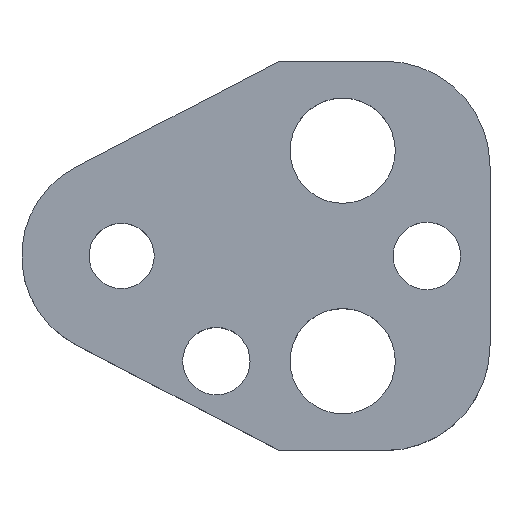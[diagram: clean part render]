
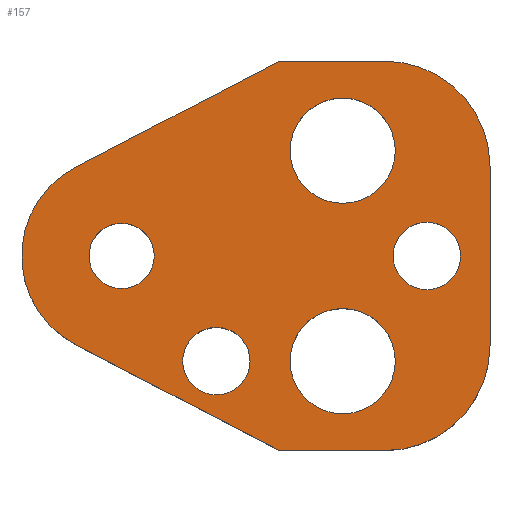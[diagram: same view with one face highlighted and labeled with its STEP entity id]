
A CAD part, top view. The second image highlights one B-rep face of the part: STEP entity #157.
In plain terms, the highlighted planar face has unit normal (0, 0, 1).
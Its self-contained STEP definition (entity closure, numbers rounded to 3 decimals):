
#103=FACE_BOUND('',#207,.T.);
#104=FACE_BOUND('',#208,.T.);
#105=FACE_BOUND('',#209,.T.);
#106=FACE_BOUND('',#210,.T.);
#107=FACE_BOUND('',#211,.T.);
#108=FACE_BOUND('',#212,.T.);
#122=CIRCLE('',#480,10.);
#124=CIRCLE('',#484,10.);
#127=CIRCLE('',#490,9.5);
#138=CIRCLE('',#503,3.2);
#139=CIRCLE('',#504,3.2);
#140=CIRCLE('',#505,5.);
#141=CIRCLE('',#506,5.);
#142=CIRCLE('',#507,5.);
#143=CIRCLE('',#508,5.);
#144=CIRCLE('',#509,3.2);
#145=CIRCLE('',#510,3.2);
#146=CIRCLE('',#511,3.1);
#147=CIRCLE('',#512,3.1);
#157=ADVANCED_FACE('',(#103,#104,#105,#106,#107,#108),#174,.T.);
#174=PLANE('',#513);
#207=EDGE_LOOP('',(#273,#274,#275,#276,#277,#278,#279,#280));
#208=EDGE_LOOP('',(#281,#282));
#209=EDGE_LOOP('',(#283,#284));
#210=EDGE_LOOP('',(#285,#286));
#211=EDGE_LOOP('',(#287,#288));
#212=EDGE_LOOP('',(#289,#290));
#273=ORIENTED_EDGE('',*,*,#368,.T.);
#274=ORIENTED_EDGE('',*,*,#372,.T.);
#275=ORIENTED_EDGE('',*,*,#375,.T.);
#276=ORIENTED_EDGE('',*,*,#378,.T.);
#277=ORIENTED_EDGE('',*,*,#381,.T.);
#278=ORIENTED_EDGE('',*,*,#384,.T.);
#279=ORIENTED_EDGE('',*,*,#387,.T.);
#280=ORIENTED_EDGE('',*,*,#390,.T.);
#281=ORIENTED_EDGE('',*,*,#401,.T.);
#282=ORIENTED_EDGE('',*,*,#402,.T.);
#283=ORIENTED_EDGE('',*,*,#403,.T.);
#284=ORIENTED_EDGE('',*,*,#404,.T.);
#285=ORIENTED_EDGE('',*,*,#405,.T.);
#286=ORIENTED_EDGE('',*,*,#406,.T.);
#287=ORIENTED_EDGE('',*,*,#407,.T.);
#288=ORIENTED_EDGE('',*,*,#408,.T.);
#289=ORIENTED_EDGE('',*,*,#409,.T.);
#290=ORIENTED_EDGE('',*,*,#410,.T.);
#332=VERTEX_POINT('',#649);
#333=VERTEX_POINT('',#651);
#336=VERTEX_POINT('',#658);
#338=VERTEX_POINT('',#664);
#340=VERTEX_POINT('',#670);
#342=VERTEX_POINT('',#676);
#344=VERTEX_POINT('',#682);
#346=VERTEX_POINT('',#688);
#357=VERTEX_POINT('',#717);
#358=VERTEX_POINT('',#718);
#359=VERTEX_POINT('',#721);
#360=VERTEX_POINT('',#722);
#361=VERTEX_POINT('',#725);
#362=VERTEX_POINT('',#726);
#363=VERTEX_POINT('',#729);
#364=VERTEX_POINT('',#730);
#365=VERTEX_POINT('',#733);
#366=VERTEX_POINT('',#734);
#368=EDGE_CURVE('',#333,#332,#422,.T.);
#372=EDGE_CURVE('',#332,#336,#426,.T.);
#375=EDGE_CURVE('',#336,#338,#122,.T.);
#378=EDGE_CURVE('',#338,#340,#430,.T.);
#381=EDGE_CURVE('',#340,#342,#124,.T.);
#384=EDGE_CURVE('',#342,#344,#434,.T.);
#387=EDGE_CURVE('',#344,#346,#437,.T.);
#390=EDGE_CURVE('',#346,#333,#127,.T.);
#401=EDGE_CURVE('',#357,#358,#138,.T.);
#402=EDGE_CURVE('',#358,#357,#139,.T.);
#403=EDGE_CURVE('',#359,#360,#140,.T.);
#404=EDGE_CURVE('',#360,#359,#141,.T.);
#405=EDGE_CURVE('',#361,#362,#142,.T.);
#406=EDGE_CURVE('',#362,#361,#143,.T.);
#407=EDGE_CURVE('',#363,#364,#144,.T.);
#408=EDGE_CURVE('',#364,#363,#145,.T.);
#409=EDGE_CURVE('',#365,#366,#146,.T.);
#410=EDGE_CURVE('',#366,#365,#147,.T.);
#422=LINE('',#650,#450);
#426=LINE('',#659,#454);
#430=LINE('',#671,#458);
#434=LINE('',#683,#462);
#437=LINE('',#689,#465);
#450=VECTOR('',#527,1.);
#454=VECTOR('',#533,1.);
#458=VECTOR('',#545,1.);
#462=VECTOR('',#557,1.);
#465=VECTOR('',#562,1.);
#480=AXIS2_PLACEMENT_3D('',#665,#538,#539);
#484=AXIS2_PLACEMENT_3D('',#677,#550,#551);
#490=AXIS2_PLACEMENT_3D('',#693,#568,#569);
#503=AXIS2_PLACEMENT_3D('',#716,#594,#595);
#504=AXIS2_PLACEMENT_3D('',#719,#596,#597);
#505=AXIS2_PLACEMENT_3D('',#720,#598,#599);
#506=AXIS2_PLACEMENT_3D('',#723,#600,#601);
#507=AXIS2_PLACEMENT_3D('',#724,#602,#603);
#508=AXIS2_PLACEMENT_3D('',#727,#604,#605);
#509=AXIS2_PLACEMENT_3D('',#728,#606,#607);
#510=AXIS2_PLACEMENT_3D('',#731,#608,#609);
#511=AXIS2_PLACEMENT_3D('',#732,#610,#611);
#512=AXIS2_PLACEMENT_3D('',#735,#612,#613);
#513=AXIS2_PLACEMENT_3D('',#736,#614,#615);
#527=DIRECTION('',(0.887,-0.461,0.));
#533=DIRECTION('',(1.,0.,0.));
#538=DIRECTION('',(0.,0.,1.));
#539=DIRECTION('',(-0.707,0.707,0.));
#545=DIRECTION('',(0.,1.,0.));
#550=DIRECTION('',(0.,0.,1.));
#551=DIRECTION('',(-0.707,-0.707,0.));
#557=DIRECTION('',(-1.,0.,0.));
#562=DIRECTION('',(-0.887,-0.461,0.));
#568=DIRECTION('',(0.,0.,1.));
#569=DIRECTION('',(1.,0.,0.));
#594=DIRECTION('',(0.,0.,-1.));
#595=DIRECTION('',(-1.,0.,0.));
#596=DIRECTION('',(0.,0.,-1.));
#597=DIRECTION('',(1.,0.,0.));
#598=DIRECTION('',(0.,0.,-1.));
#599=DIRECTION('',(-1.,0.,0.));
#600=DIRECTION('',(0.,0.,-1.));
#601=DIRECTION('',(1.,0.,0.));
#602=DIRECTION('',(0.,0.,-1.));
#603=DIRECTION('',(-1.,0.,0.));
#604=DIRECTION('',(0.,0.,-1.));
#605=DIRECTION('',(1.,0.,0.));
#606=DIRECTION('',(0.,0.,-1.));
#607=DIRECTION('',(-1.,0.,0.));
#608=DIRECTION('',(0.,0.,-1.));
#609=DIRECTION('',(1.,0.,0.));
#610=DIRECTION('',(0.,0.,-1.));
#611=DIRECTION('',(-1.,0.,0.));
#612=DIRECTION('',(0.,0.,-1.));
#613=DIRECTION('',(1.,0.,0.));
#614=DIRECTION('',(0.,0.,1.));
#615=DIRECTION('',(0.887,-0.461,0.));
#649=CARTESIAN_POINT('',(15.,-18.5,10.));
#650=CARTESIAN_POINT('',(15.,-18.5,10.));
#651=CARTESIAN_POINT('',(-4.38,-8.43,10.));
#658=CARTESIAN_POINT('',(25.,-18.5,10.));
#659=CARTESIAN_POINT('',(15.,-18.5,10.));
#664=CARTESIAN_POINT('',(35.,-8.5,10.));
#665=CARTESIAN_POINT('',(25.,-8.5,10.));
#670=CARTESIAN_POINT('',(35.,8.5,10.));
#671=CARTESIAN_POINT('',(35.,8.5,10.));
#676=CARTESIAN_POINT('',(25.,18.5,10.));
#677=CARTESIAN_POINT('',(25.,8.5,10.));
#682=CARTESIAN_POINT('',(15.,18.5,10.));
#683=CARTESIAN_POINT('',(15.,18.5,10.));
#688=CARTESIAN_POINT('',(-4.38,8.43,10.));
#689=CARTESIAN_POINT('',(15.,18.5,10.));
#693=CARTESIAN_POINT('',(0.,0.,10.));
#716=CARTESIAN_POINT('',(29.,0.,10.));
#717=CARTESIAN_POINT('',(29.,3.2,10.));
#718=CARTESIAN_POINT('',(29.,-3.2,10.));
#719=CARTESIAN_POINT('',(29.,0.,10.));
#720=CARTESIAN_POINT('',(21.,10.,10.));
#721=CARTESIAN_POINT('',(21.,15.,10.));
#722=CARTESIAN_POINT('',(21.,5.,10.));
#723=CARTESIAN_POINT('',(21.,10.,10.));
#724=CARTESIAN_POINT('',(21.,-10.,10.));
#725=CARTESIAN_POINT('',(21.,-5.,10.));
#726=CARTESIAN_POINT('',(21.,-15.,10.));
#727=CARTESIAN_POINT('',(21.,-10.,10.));
#728=CARTESIAN_POINT('',(9.,-10.,10.));
#729=CARTESIAN_POINT('',(9.,-6.8,10.));
#730=CARTESIAN_POINT('',(9.,-13.2,10.));
#731=CARTESIAN_POINT('',(9.,-10.,10.));
#732=CARTESIAN_POINT('',(0.,0.,10.));
#733=CARTESIAN_POINT('',(0.,3.1,10.));
#734=CARTESIAN_POINT('',(0.,-3.1,10.));
#735=CARTESIAN_POINT('',(0.,0.,10.));
#736=CARTESIAN_POINT('',(-4.38,-8.43,10.));
